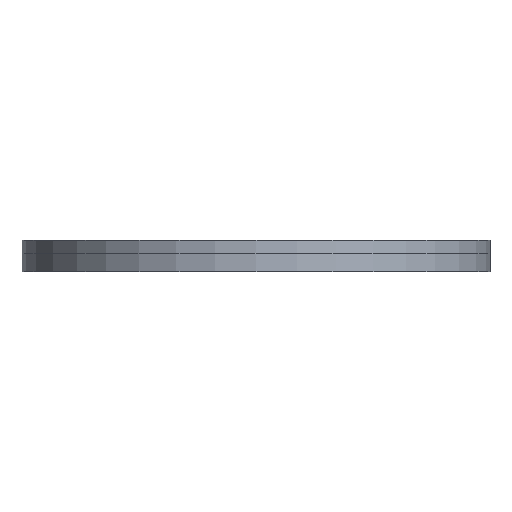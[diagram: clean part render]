
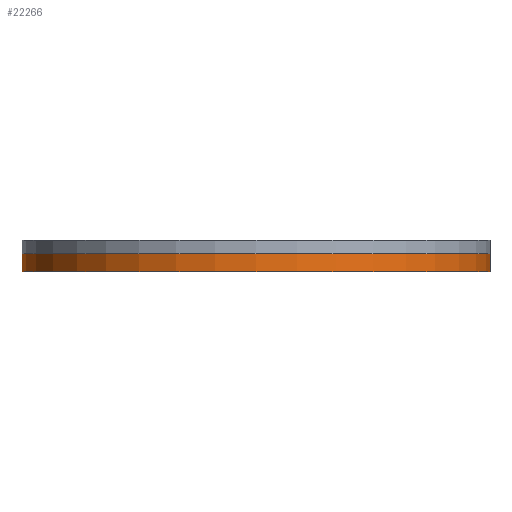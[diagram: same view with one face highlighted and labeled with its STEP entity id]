
A CAD part, front view. The second image highlights one B-rep face of the part: STEP entity #22266.
In plain terms, the highlighted cylindrical face has radius 15 mm (diameter 30 mm), a full revolution.
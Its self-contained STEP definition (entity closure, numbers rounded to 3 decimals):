
#133=CIRCLE('',#22511,15.);
#134=CIRCLE('',#22553,15.);
#136=CYLINDRICAL_SURFACE('',#22571,15.);
#1560=FACE_OUTER_BOUND('',#2813,.T.);
#2813=EDGE_LOOP('',(#20108,#20109,#20110,#20111));
#4285=LINE('',#43860,#5756);
#5756=VECTOR('',#24531,15.);
#8919=VERTEX_POINT('',#34565);
#9936=VERTEX_POINT('',#43840);
#11803=EDGE_CURVE('',#8919,#8919,#133,.T.);
#13328=EDGE_CURVE('',#9936,#9936,#134,.T.);
#13329=EDGE_CURVE('',#8919,#9936,#4285,.T.);
#20108=ORIENTED_EDGE('',*,*,#11803,.T.);
#20109=ORIENTED_EDGE('',*,*,#13329,.T.);
#20110=ORIENTED_EDGE('',*,*,#13328,.T.);
#20111=ORIENTED_EDGE('',*,*,#13329,.F.);
#22266=ADVANCED_FACE('',(#1560),#136,.T.);
#22511=AXIS2_PLACEMENT_3D('',#34566,#23841,#23842);
#22553=AXIS2_PLACEMENT_3D('',#43841,#24493,#24494);
#22571=AXIS2_PLACEMENT_3D('',#43859,#24529,#24530);
#23841=DIRECTION('center_axis',(0.,0.,-1.));
#23842=DIRECTION('ref_axis',(1.,0.,0.));
#24493=DIRECTION('center_axis',(0.,0.,1.));
#24494=DIRECTION('ref_axis',(1.,0.,0.));
#24529=DIRECTION('center_axis',(0.,0.,1.));
#24530=DIRECTION('ref_axis',(1.,0.,0.));
#24531=DIRECTION('',(0.,0.,-1.));
#34565=CARTESIAN_POINT('',(0.,-15.,1.16));
#34566=CARTESIAN_POINT('Origin',(15.,-15.,1.16));
#43840=CARTESIAN_POINT('',(0.,-15.,0.));
#43841=CARTESIAN_POINT('Origin',(15.,-15.,0.));
#43859=CARTESIAN_POINT('Origin',(15.,-15.,0.));
#43860=CARTESIAN_POINT('',(0.,-15.,0.));
